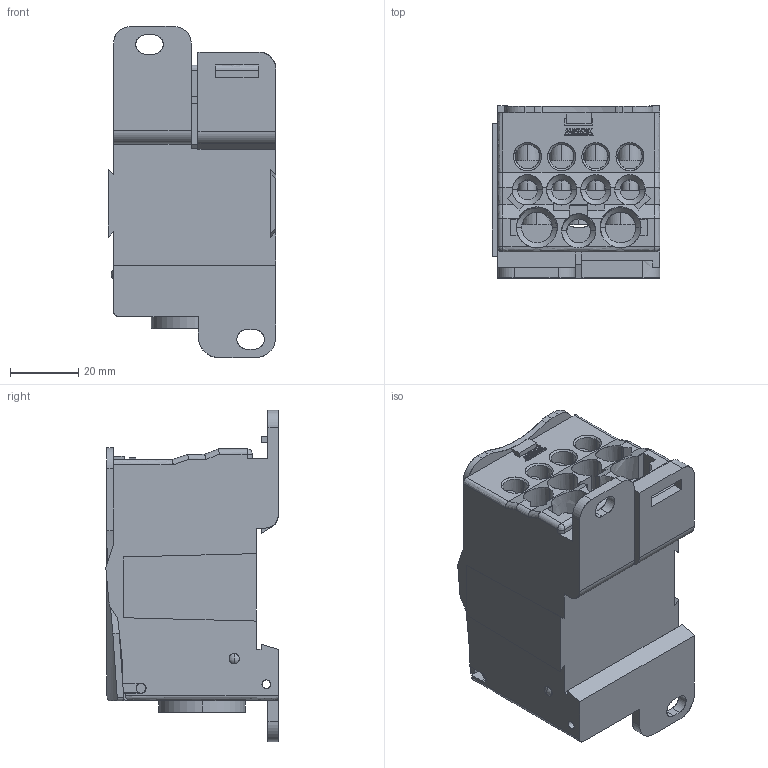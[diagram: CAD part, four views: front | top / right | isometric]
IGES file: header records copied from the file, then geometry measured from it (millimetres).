
Start section: SolidWorks IGES file using analytic representation for surfaces
Global section: file name: D:\X - Arquivos\PROEX\Empresas\P11 - METALTEX\01 - Produtos\IGES\5ª remessa\2ª etapa\BDA250.IGS; native system: SolidWorks 2012; preprocessor: SolidWorks 2012; author: Usuario; date: 180810.170025; units: millimetre
Bounding box: 49.1 x 50.5 x 97 mm (x, y, z)
Surface area: 45875.5 mm2 (no closed solid volume)
Topology: 0 solids, 0 shells, 663 faces, 8708 edges, 8707 vertices
Faces by surface type: bspline 437, revolution 226
